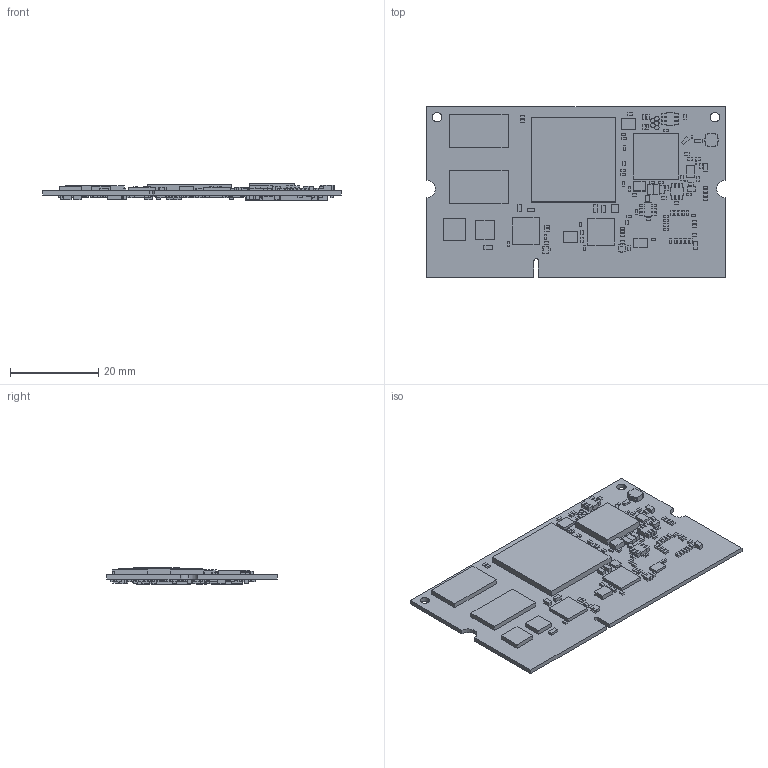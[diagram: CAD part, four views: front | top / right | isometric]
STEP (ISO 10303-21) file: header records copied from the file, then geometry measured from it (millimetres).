
FILE_DESCRIPTION (( 'STEP AP214' ), '1' );
FILE_NAME ('VAR-SOM-MX7-5G_V2_1_VPC0408-6U-F-final-BOM_CREATOR.STEP', '2022-04-04T09:17:05', ( 'Äãñëí' ), ( '' ), 'SwSTEP 2.0', 'SolidWorks 2022', '' );
FILE_SCHEMA (( 'AUTOMOTIVE_DESIGN' ));
Length unit declared in the file: millimetre
Products named in the file (1): VAR-SOM-MX7-5G_V2_1_VPC0408-6U-F-final-BOM_CREATOR
Bounding box: 67.6 x 38.6 x 3.8 mm (x, y, z)
Volume: 4162.5 mm3; surface area: 9141.1 mm2
Topology: 369 solids, 369 shells, 2344 faces, 4815 edges, 3210 vertices
Faces by surface type: plane 2320, cylinder 24
Entity records: 89446 total; most frequent: CARTESIAN_POINT 10370, ORIENTED_EDGE 9630, DIRECTION 9553, EDGE_CURVE 4815, LINE 4767, VECTOR 4767, VERTEX_POINT 3210, UNCERTAINTY_MEASURE_WITH_UNIT 2706
